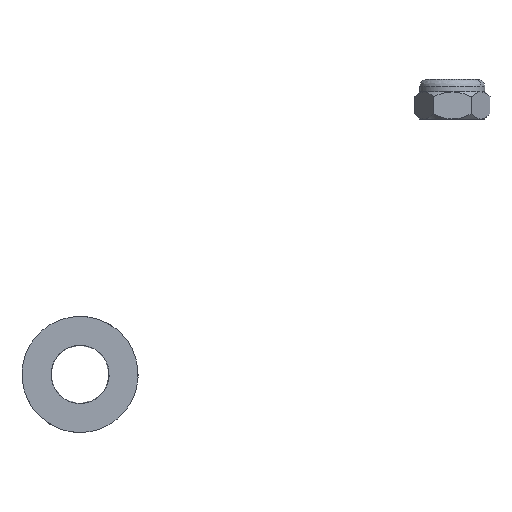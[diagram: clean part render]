
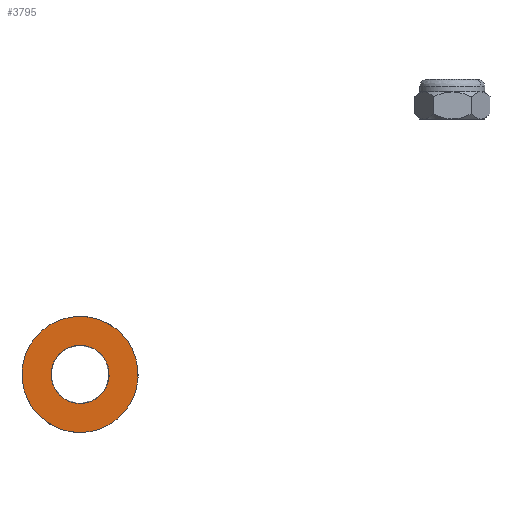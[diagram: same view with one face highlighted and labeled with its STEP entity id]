
A CAD part, left-side view. The second image highlights one B-rep face of the part: STEP entity #3795.
In plain terms, the highlighted planar face has unit normal (-1, 0, 0).
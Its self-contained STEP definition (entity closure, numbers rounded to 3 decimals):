
#1324 = EDGE_CURVE ( 'NONE', #2183, #2418, #3786, .T. ) ;
#1325 = EDGE_CURVE ( 'NONE', #2418, #2183, #3787, .T. ) ;
#1335 = AXIS2_PLACEMENT_3D ( 'NONE', #2499, #2489, #2488 ) ;
#1349 = EDGE_CURVE ( 'NONE', #2182, #2101, #3789, .T. ) ;
#1350 = EDGE_CURVE ( 'NONE', #2101, #2182, #3790, .T. ) ;
#1912 = CARTESIAN_POINT ( 'NONE',  ( -18., 55.385, -116.256 ) ) ;
#1966 = CARTESIAN_POINT ( 'NONE',  ( -18., 52.766, -114.825 ) ) ;
#1972 = CARTESIAN_POINT ( 'NONE',  ( -18., 58.533, -124.291 ) ) ;
#1984 = CARTESIAN_POINT ( 'NONE',  ( -18., 57.459, -127.075 ) ) ;
#1989 = CARTESIAN_POINT ( 'NONE',  ( -18., 53.148, -131.035 ) ) ;
#1995 = CARTESIAN_POINT ( 'NONE',  ( -18., 58.035, -119.852 ) ) ;
#2001 = CARTESIAN_POINT ( 'NONE',  ( -18., 58.462, -121.308 ) ) ;
#2006 = CARTESIAN_POINT ( 'NONE',  ( -18., 43.256, -117.615 ) ) ;
#2019 = CARTESIAN_POINT ( 'NONE',  ( -18., 47.234, -131.175 ) ) ;
#2059 = CARTESIAN_POINT ( 'NONE',  ( -18., 58.15, -108.081 ) ) ;
#2060 = CARTESIAN_POINT ( 'NONE',  ( -18., 60.769, -109.512 ) ) ;
#2062 = CARTESIAN_POINT ( 'NONE',  ( -18., 62.965, -111.607 ) ) ;
#2065 = CARTESIAN_POINT ( 'NONE',  ( -18., 64.518, -114.155 ) ) ;
#2066 = CARTESIAN_POINT ( 'NONE',  ( -18., 66.07, -116.703 ) ) ;
#2067 = CARTESIAN_POINT ( 'NONE',  ( -18., 66.925, -119.616 ) ) ;
#2068 = CARTESIAN_POINT ( 'NONE',  ( -18., 66.995, -122.599 ) ) ;
#2070 = CARTESIAN_POINT ( 'NONE',  ( -18., 54.075, -115.541 ) ) ;
#2080 = CARTESIAN_POINT ( 'NONE',  ( -18., 67.066, -125.582 ) ) ;
#2083 = CARTESIAN_POINT ( 'NONE',  ( -18., 66.35, -128.531 ) ) ;
#2085 = CARTESIAN_POINT ( 'NONE',  ( -18., 64.919, -131.15 ) ) ;
#2087 = CARTESIAN_POINT ( 'NONE',  ( -18., 63.488, -133.769 ) ) ;
#2093 = CARTESIAN_POINT ( 'NONE',  ( -18., 54.423, -130.259 ) ) ;
#2094 = CARTESIAN_POINT ( 'NONE',  ( -18., 44.303, -116.517 ) ) ;
#2096 = CARTESIAN_POINT ( 'NONE',  ( -18., 61.393, -135.965 ) ) ;
#2101 = VERTEX_POINT ( 'NONE', #3777 ) ;
#2104 = CARTESIAN_POINT ( 'NONE',  ( -18., 58.845, -137.518 ) ) ;
#2105 = CARTESIAN_POINT ( 'NONE',  ( -18., 55.697, -129.483 ) ) ;
#2106 = CARTESIAN_POINT ( 'NONE',  ( -18., 56.297, -139.07 ) ) ;
#2108 = CARTESIAN_POINT ( 'NONE',  ( -18., 53.384, -139.925 ) ) ;
#2109 = CARTESIAN_POINT ( 'NONE',  ( -18., 50.401, -139.995 ) ) ;
#2110 = CARTESIAN_POINT ( 'NONE',  ( -18., 47.418, -140.066 ) ) ;
#2111 = CARTESIAN_POINT ( 'NONE',  ( -18., 44.469, -139.35 ) ) ;
#2114 = CARTESIAN_POINT ( 'NONE',  ( -18., 41.85, -137.919 ) ) ;
#2115 = CARTESIAN_POINT ( 'NONE',  ( -18., 39.231, -136.488 ) ) ;
#2116 = CARTESIAN_POINT ( 'NONE',  ( -18., 37.035, -134.393 ) ) ;
#2117 = CARTESIAN_POINT ( 'NONE',  ( -18., 35.482, -131.845 ) ) ;
#2118 = CARTESIAN_POINT ( 'NONE',  ( -18., 33.93, -129.297 ) ) ;
#2119 = CARTESIAN_POINT ( 'NONE',  ( -18., 33.075, -126.384 ) ) ;
#2121 = CARTESIAN_POINT ( 'NONE',  ( -18., 33.005, -123.401 ) ) ;
#2122 = CARTESIAN_POINT ( 'NONE',  ( -18., 32.934, -120.418 ) ) ;
#2125 = CARTESIAN_POINT ( 'NONE',  ( -18., 33.65, -117.469 ) ) ;
#2129 = CARTESIAN_POINT ( 'NONE',  ( -18., 58.175, -125.766 ) ) ;
#2133 = CARTESIAN_POINT ( 'NONE',  ( -18., 35.081, -114.85 ) ) ;
#2135 = CARTESIAN_POINT ( 'NONE',  ( -18., 42.541, -118.925 ) ) ;
#2136 = CARTESIAN_POINT ( 'NONE',  ( -18., 41.502, -123.201 ) ) ;
#2143 = CARTESIAN_POINT ( 'NONE',  ( -18., 36.512, -112.231 ) ) ;
#2145 = CARTESIAN_POINT ( 'NONE',  ( -18., 38.607, -110.035 ) ) ;
#2146 = CARTESIAN_POINT ( 'NONE',  ( -18., 45.577, -115.741 ) ) ;
#2147 = CARTESIAN_POINT ( 'NONE',  ( -18., 41.155, -108.482 ) ) ;
#2148 = CARTESIAN_POINT ( 'NONE',  ( -18., 44.615, -129.744 ) ) ;
#2149 = CARTESIAN_POINT ( 'NONE',  ( -18., 43.703, -106.93 ) ) ;
#2150 = CARTESIAN_POINT ( 'NONE',  ( -18., 43.517, -128.697 ) ) ;
#2151 = CARTESIAN_POINT ( 'NONE',  ( -18., 46.616, -106.075 ) ) ;
#2154 = CARTESIAN_POINT ( 'NONE',  ( -18., 49.599, -106.005 ) ) ;
#2155 = CARTESIAN_POINT ( 'NONE',  ( -18., 51.291, -114.467 ) ) ;
#2156 = CARTESIAN_POINT ( 'NONE',  ( -18., 42.741, -127.423 ) ) ;
#2157 = CARTESIAN_POINT ( 'NONE',  ( -18., 41.965, -126.148 ) ) ;
#2158 = CARTESIAN_POINT ( 'NONE',  ( -18., 49.799, -114.502 ) ) ;
#2159 = CARTESIAN_POINT ( 'NONE',  ( -18., 41.467, -121.709 ) ) ;
#2166 = CARTESIAN_POINT ( 'NONE',  ( -18., 41.538, -124.692 ) ) ;
#2168 = CARTESIAN_POINT ( 'NONE',  ( -18., 45.925, -130.459 ) ) ;
#2169 = CARTESIAN_POINT ( 'NONE',  ( -18., 54.075, -115.541 ) ) ;
#2171 = CARTESIAN_POINT ( 'NONE',  ( -18., 52.582, -105.934 ) ) ;
#2178 = CARTESIAN_POINT ( 'NONE',  ( -18., 55.531, -106.65 ) ) ;
#2181 = CARTESIAN_POINT ( 'NONE',  ( -18., 56.744, -128.385 ) ) ;
#2182 = VERTEX_POINT ( 'NONE', #3765 ) ;
#2183 = VERTEX_POINT ( 'NONE', #3762 ) ;
#2194 = CARTESIAN_POINT ( 'NONE',  ( -18., 58.498, -122.799 ) ) ;
#2224 = CARTESIAN_POINT ( 'NONE',  ( -18., 57.259, -118.577 ) ) ;
#2234 = CARTESIAN_POINT ( 'NONE',  ( -18., 56.483, -117.303 ) ) ;
#2246 = CARTESIAN_POINT ( 'NONE',  ( -18., 46.852, -114.965 ) ) ;
#2249 = CARTESIAN_POINT ( 'NONE',  ( -18., 41.825, -120.234 ) ) ;
#2250 = CARTESIAN_POINT ( 'NONE',  ( -18., 48.709, -131.533 ) ) ;
#2251 = CARTESIAN_POINT ( 'NONE',  ( -18., 48.308, -114.538 ) ) ;
#2333 = CARTESIAN_POINT ( 'NONE',  ( -18., 51.692, -131.462 ) ) ;
#2337 = CARTESIAN_POINT ( 'NONE',  ( -18., 50.201, -131.498 ) ) ;
#2350 = CARTESIAN_POINT ( 'NONE',  ( -18., 41.85, -137.919 ) ) ;
#2370 = CARTESIAN_POINT ( 'NONE',  ( -18., 58.15, -108.081 ) ) ;
#2372 = CARTESIAN_POINT ( 'NONE',  ( -18., 45.925, -130.459 ) ) ;
#2418 = VERTEX_POINT ( 'NONE', #3741 ) ;
#2488 = DIRECTION ( 'NONE',  ( 0., 0., 1. ) ) ;
#2489 = DIRECTION ( 'NONE',  ( 1., 0., 0. ) ) ;
#2498 = PLANE ( 'NONE',  #1335 ) ;
#2499 = CARTESIAN_POINT ( 'NONE',  ( -18., 67.03, -140.03 ) ) ;
#2624 = FACE_OUTER_BOUND ( 'NONE', #2922, .T. ) ;
#2628 = FACE_BOUND ( 'NONE', #2945, .T. ) ;
#2655 = ORIENTED_EDGE ( 'NONE', *, *, #1349, .F. ) ;
#2656 = ORIENTED_EDGE ( 'NONE', *, *, #1350, .F. ) ;
#2657 = ORIENTED_EDGE ( 'NONE', *, *, #1325, .F. ) ;
#2658 = ORIENTED_EDGE ( 'NONE', *, *, #1324, .F. ) ;
#2922 = EDGE_LOOP ( 'NONE', ( #2656, #2655 ) ) ;
#2945 = EDGE_LOOP ( 'NONE', ( #2658, #2657 ) ) ;
#3741 = CARTESIAN_POINT ( 'NONE',  ( -18., 54.075, -115.541 ) ) ;
#3762 = CARTESIAN_POINT ( 'NONE',  ( -18., 45.925, -130.459 ) ) ;
#3765 = CARTESIAN_POINT ( 'NONE',  ( -18., 58.15, -108.081 ) ) ;
#3777 = CARTESIAN_POINT ( 'NONE',  ( -18., 41.85, -137.919 ) ) ;
#3786 = B_SPLINE_CURVE_WITH_KNOTS ( 'NONE', 3,
 ( #2168, #2148, #2150, #2156, #2157, #2166, #2136, #2159, #2249, #2135, #2006, #2094, #2146, #2246, #2251, #2158, #2155, #1966, #2070 ),
 .UNSPECIFIED., .F., .F.,
 ( 4, 3, 3, 3, 3, 3, 4 ),
 ( 0., 0.004, 0.009, 0.013, 0.018, 0.022, 0.027 ),
 .UNSPECIFIED. ) ;
#3787 = B_SPLINE_CURVE_WITH_KNOTS ( 'NONE', 3,
 ( #2169, #1912, #2234, #2224, #1995, #2001, #2194, #1972, #2129, #1984, #2181, #2105, #2093, #1989, #2333, #2337, #2250, #2019, #2372 ),
 .UNSPECIFIED., .F., .F.,
 ( 4, 3, 3, 3, 3, 3, 4 ),
 ( 0., 0.004, 0.009, 0.013, 0.018, 0.022, 0.027 ),
 .UNSPECIFIED. ) ;
#3789 = B_SPLINE_CURVE_WITH_KNOTS ( 'NONE', 3,
 ( #2370, #2178, #2171, #2154, #2151, #2149, #2147, #2145, #2143, #2133, #2125, #2122, #2121, #2119, #2118, #2117, #2116, #2115, #2114 ),
 .UNSPECIFIED., .F., .F.,
 ( 4, 3, 3, 3, 3, 3, 4 ),
 ( 0., 0.009, 0.018, 0.027, 0.036, 0.044, 0.053 ),
 .UNSPECIFIED. ) ;
#3790 = B_SPLINE_CURVE_WITH_KNOTS ( 'NONE', 3,
 ( #2350, #2111, #2110, #2109, #2108, #2106, #2104, #2096, #2087, #2085, #2083, #2080, #2068, #2067, #2066, #2065, #2062, #2060, #2059 ),
 .UNSPECIFIED., .F., .F.,
 ( 4, 3, 3, 3, 3, 3, 4 ),
 ( 0., 0.009, 0.018, 0.027, 0.036, 0.044, 0.053 ),
 .UNSPECIFIED. ) ;
#3795 = ADVANCED_FACE ( 'NONE', ( #2628, #2624 ), #2498, .F. ) ;
